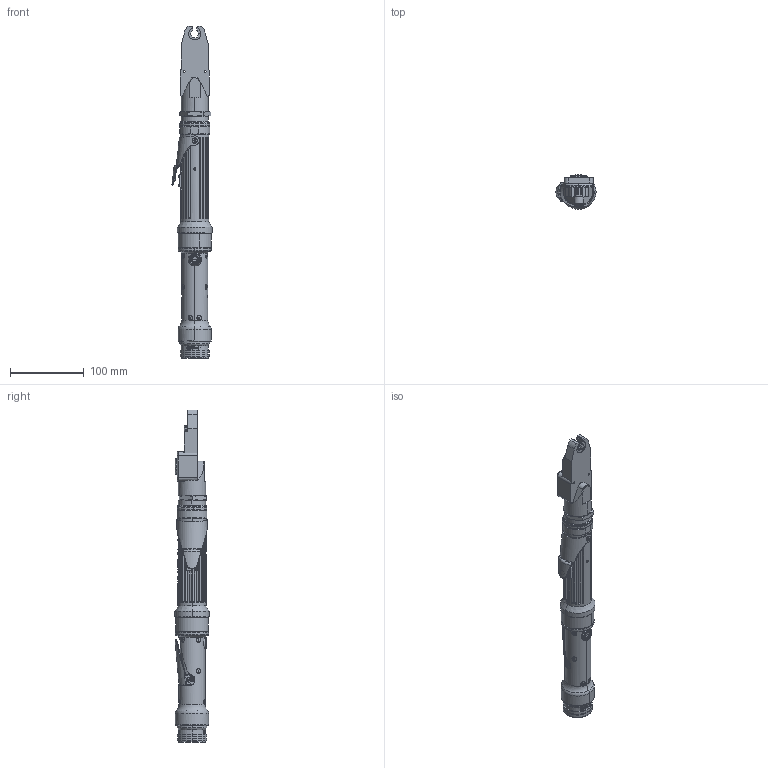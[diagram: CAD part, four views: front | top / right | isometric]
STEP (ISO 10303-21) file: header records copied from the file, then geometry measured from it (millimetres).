
FILE_DESCRIPTION (( 'STEP AP214' ), '1' );
FILE_NAME ('AET32020CDL.STEP', '2016-04-19T21:44:54', ( 'AIMCO' ), ( '' ), 'SwSTEP 2.0', 'SolidWorks 2016', '' );
FILE_SCHEMA (( 'AUTOMOTIVE_DESIGN' ));
Length unit declared in the file: inch
Products named in the file (1): AET32020CDL
Bounding box: 54.45 x 46.99 x 451.72 mm (x, y, z)
Surface area: 92256.2 mm2 (no closed solid volume)
Topology: 0 solids, 108 shells, 1053 faces, 3742 edges, 2651 vertices
Faces by surface type: plane 279, cylinder 264, cone 169, bspline 159, torus 143, sphere 39
Entity records: 71872 total; most frequent: CARTESIAN_POINT 29279, ORIENTED_EDGE 5618, DIRECTION 5467, EDGE_CURVE 3674, VERTEX_POINT 2618, AXIS2_PLACEMENT_3D 2140, CIRCLE 1245, EDGE_LOOP 1213
